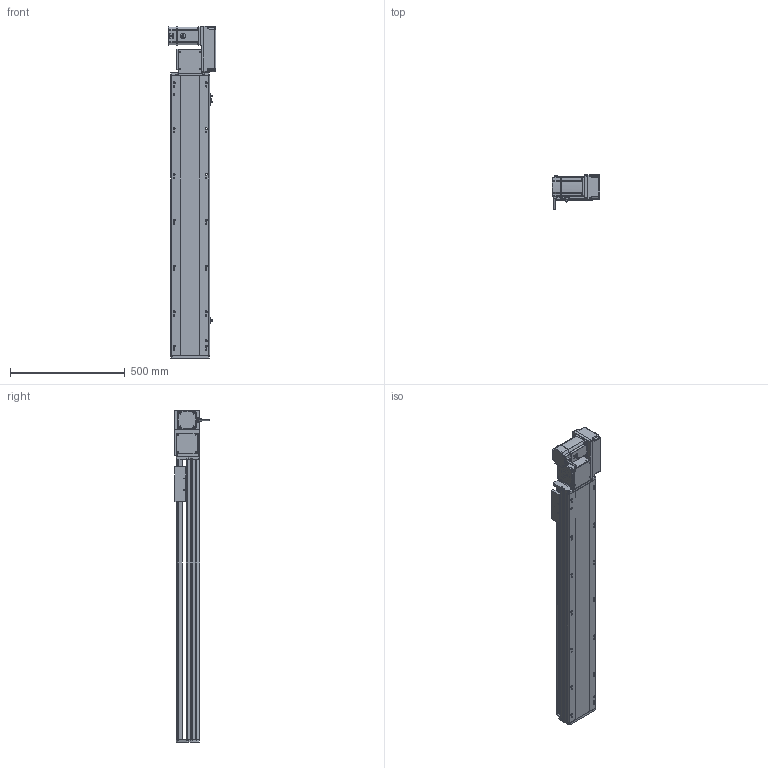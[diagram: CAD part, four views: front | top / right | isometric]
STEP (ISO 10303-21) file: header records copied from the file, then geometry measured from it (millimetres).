
FILE_DESCRIPTION (( 'STEP AP214' ), '1' );
FILE_NAME ('RTB17S-XX-950-R-M75-C4.STEP', '2025-12-12T01:34:40', ( '' ), ( '' ), 'SwSTEP 2.0', 'SolidWorks 2018', '' );
FILE_SCHEMA (( 'AUTOMOTIVE_DESIGN' ));
Length unit declared in the file: millimetre
Products named in the file (15): RTB17S-L-004-賑釱^RTB17S-賑釱_RTB17S-XX-XX-R-M75-C4; RTH13-BL-012覜茼え俋离^RTB17S-賑釱_RTB17S-XX-XX-R-M75-C4; EE672^RTB17S-XX-XX-R-M75-C4; RTB17S-R-々湍釱蚾饜-750W^RTB17S-XX-XX-R-M75-C4; RTB17S-XX-950-R-M75-C4; RTB22S-GY-018P^RTB17S-R-々湍釱蚾饜-750W_RTB17S-XX-XX-R-M75-C4; RTB22S-GY-017P^RTB17S-R-々湍釱蚾饜-750W_RTB17S-XX-XX-R-M75-C4; RTB22S-GY-008-M75--萇儂啣^RTB17S-R-々湍釱蚾饜-750W_RTB17S-XX-XX-R-M75-C4; RTB22S-GY-005P^RTB17S-R-々湍釱蚾饜-750W_RTB17S-XX-XX-R-M75-C4; 750W萇儂^RTB17S-XX-XX-R-M75-C4; RTB17S-L-001-耜醱啣^RTB17S-XX-XX-R-M75-C4; RTB17S-L-007奻裔^RTB17S-XX-XX-R-M75-C4; RTB17S-L-014-T20-P75--々湍釱^RTB17S-R-々湍釱蚾饜-750W_RTB17S-XX-XX-R-M75-C4; RTB17-R-011菁釱^RTB17S-XX-XX-R-M75-C4; RTB17S-賑釱^RTB17S-XX-XX-R-M75-C4
Assembly tree (17 placements, depth 3):
  RTB17S-XX-950-R-M75-C4
    RTB17-R-011菁釱^RTB17S-XX-XX-R-M75-C4
    EE672^RTB17S-XX-XX-R-M75-C4  x3
    RTB17S-L-001-耜醱啣^RTB17S-XX-XX-R-M75-C4
    RTB17S-賑釱^RTB17S-XX-XX-R-M75-C4
      RTB17S-L-004-賑釱^RTB17S-賑釱_RTB17S-XX-XX-R-M75-C4
      RTH13-BL-012覜茼え俋离^RTB17S-賑釱_RTB17S-XX-XX-R-M75-C4
    RTB17S-L-007奻裔^RTB17S-XX-XX-R-M75-C4
    750W萇儂^RTB17S-XX-XX-R-M75-C4
    RTB17S-R-々湍釱蚾饜-750W^RTB17S-XX-XX-R-M75-C4
      RTB17S-L-014-T20-P75--々湍釱^RTB17S-R-々湍釱蚾饜-750W_RTB17S-XX-XX-R-M75-C4
      RTB22S-GY-005P^RTB17S-R-々湍釱蚾饜-750W_RTB17S-XX-XX-R-M75-C4
      RTB22S-GY-017P^RTB17S-R-々湍釱蚾饜-750W_RTB17S-XX-XX-R-M75-C4  x2
      RTB22S-GY-008-M75--萇儂啣^RTB17S-R-々湍釱蚾饜-750W_RTB17S-XX-XX-R-M75-C4
      RTB22S-GY-018P^RTB17S-R-々湍釱蚾饜-750W_RTB17S-XX-XX-R-M75-C4
Bounding box: 207.4 x 152.7 x 1449 mm (x, y, z)
Volume: 11888581.1 mm3; surface area: 2009502.6 mm2
Topology: 17 solids, 17 shells, 2089 faces, 5782 edges, 3734 vertices
Faces by surface type: plane 970, cylinder 703, bspline 294, cone 110, sphere 8, torus 4
Entity records: 58102 total; most frequent: CARTESIAN_POINT 17046, ORIENTED_EDGE 8408, DIRECTION 7862, EDGE_CURVE 4204, AXIS2_PLACEMENT_3D 2754, VERTEX_POINT 2738, VECTOR 2354, LINE 2354
